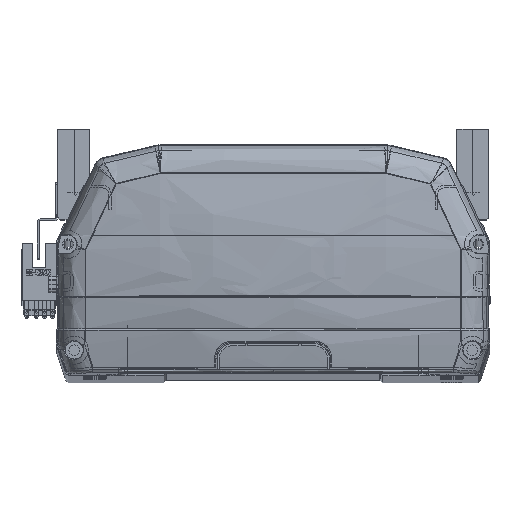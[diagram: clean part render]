
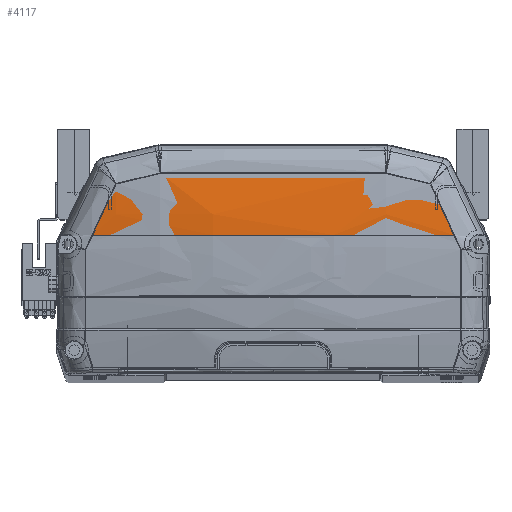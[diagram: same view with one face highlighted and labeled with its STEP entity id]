
A CAD part, top view. The second image highlights one B-rep face of the part: STEP entity #4117.
In plain terms, the highlighted toroidal (fillet/blend) face has major radius 312.5 mm and minor radius 572.4 mm.
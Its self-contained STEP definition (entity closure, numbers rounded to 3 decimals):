
#63 = CARTESIAN_POINT ( 'NONE',  ( 14.805, 79.361, -1.235 ) ) ;
#93 = TOROIDAL_SURFACE ( 'NONE', #24545, -312.5, 572.4 ) ;
#917 = B_SPLINE_CURVE_WITH_KNOTS ( 'NONE', 3,
 ( #5442, #2244, #36253, #12828 ),
 .UNSPECIFIED., .F., .F.,
 ( 4, 4 ),
 ( 0., 0.018 ),
 .UNSPECIFIED. ) ;
#1046 = ORIENTED_EDGE ( 'NONE', *, *, #17929, .F. ) ;
#1422 = CARTESIAN_POINT ( 'NONE',  ( 0., 55.096, -572.5 ) ) ;
#2244 = CARTESIAN_POINT ( 'NONE',  ( 50.132, 78.049, -3.29 ) ) ;
#3226 = CARTESIAN_POINT ( 'NONE',  ( -61.718, 75.278, -4.232 ) ) ;
#3555 = EDGE_CURVE ( 'NONE', #37164, #18410, #21146, .T. ) ;
#4117 = ADVANCED_FACE ( 'NONE', ( #27709 ), #93, .T. ) ;
#4731 = CARTESIAN_POINT ( 'NONE',  ( -63.264, 71.911, -4.135 ) ) ;
#5442 = CARTESIAN_POINT ( 'NONE',  ( 44.331, 79.443, -2.97 ) ) ;
#6615 = CARTESIAN_POINT ( 'NONE',  ( 44.331, 79.443, -2.97 ) ) ;
#8072 = CARTESIAN_POINT ( 'NONE',  ( -61.718, 75.278, -4.232 ) ) ;
#8225 = ORIENTED_EDGE ( 'NONE', *, *, #3555, .F. ) ;
#8341 = EDGE_CURVE ( 'NONE', #37240, #37164, #917, .T. ) ;
#9043 = EDGE_CURVE ( 'NONE', #9798, #18410, #40972, .T. ) ;
#9798 = VERTEX_POINT ( 'NONE', #36061 ) ;
#10985 = VERTEX_POINT ( 'NONE', #15142 ) ;
#11192 = CARTESIAN_POINT ( 'NONE',  ( 64.811, 68.545, -4.037 ) ) ;
#12828 = CARTESIAN_POINT ( 'NONE',  ( 61.718, 75.278, -4.232 ) ) ;
#12878 = CARTESIAN_POINT ( 'NONE',  ( -44.331, 79.443, -2.97 ) ) ;
#14561 = CARTESIAN_POINT ( 'NONE',  ( 67.917, 61.809, -4.135 ) ) ;
#15142 = CARTESIAN_POINT ( 'NONE',  ( -44.331, 79.443, -2.97 ) ) ;
#15454 = VERTEX_POINT ( 'NONE', #3226 ) ;
#16063 = DIRECTION ( 'NONE',  ( 1., 0., 0. ) ) ;
#16880 = ORIENTED_EDGE ( 'NONE', *, *, #9043, .T. ) ;
#17929 = EDGE_CURVE ( 'NONE', #10985, #37240, #22325, .T. ) ;
#18004 = CARTESIAN_POINT ( 'NONE',  ( -67.917, 61.816, -4.208 ) ) ;
#18410 = VERTEX_POINT ( 'NONE', #24177 ) ;
#18535 = CARTESIAN_POINT ( 'NONE',  ( 61.718, 75.278, -4.232 ) ) ;
#18758 = CARTESIAN_POINT ( 'NONE',  ( 61.718, 75.278, -4.232 ) ) ;
#20212 = CARTESIAN_POINT ( 'NONE',  ( -61.718, 75.278, -4.232 ) ) ;
#21146 = B_SPLINE_CURVE_WITH_KNOTS ( 'NONE', 3,
 ( #18535, #11192, #14561, #21289 ),
 .UNSPECIFIED., .F., .F.,
 ( 4, 4 ),
 ( 0., 0.022 ),
 .UNSPECIFIED. ) ;
#21289 = CARTESIAN_POINT ( 'NONE',  ( 71.027, 55.096, -4.524 ) ) ;
#22325 = B_SPLINE_CURVE_WITH_KNOTS ( 'NONE', 3,
 ( #12878, #23249, #23518, #63, #30298, #6615 ),
 .UNSPECIFIED., .F., .F.,
 ( 4, 2, 4 ),
 ( 0., 0.044, 0.089 ),
 .UNSPECIFIED. ) ;
#22824 = ORIENTED_EDGE ( 'NONE', *, *, #8341, .F. ) ;
#23249 = CARTESIAN_POINT ( 'NONE',  ( -29.579, 79.39, -1.814 ) ) ;
#23518 = CARTESIAN_POINT ( 'NONE',  ( -14.788, 79.361, -1.235 ) ) ;
#24033 = ORIENTED_EDGE ( 'NONE', *, *, #35253, .F. ) ;
#24177 = CARTESIAN_POINT ( 'NONE',  ( 71.027, 55.096, -4.524 ) ) ;
#24412 = DIRECTION ( 'NONE',  ( 0., 1., 0. ) ) ;
#24545 = AXIS2_PLACEMENT_3D ( 'NONE', #38732, #16063, #27090 ) ;
#24853 = DIRECTION ( 'NONE',  ( 0., 0., 1. ) ) ;
#26415 = CARTESIAN_POINT ( 'NONE',  ( 44.331, 79.443, -2.97 ) ) ;
#27090 = DIRECTION ( 'NONE',  ( 0., 0., -1. ) ) ;
#27709 = FACE_OUTER_BOUND ( 'NONE', #41637, .T. ) ;
#28449 = ORIENTED_EDGE ( 'NONE', *, *, #36833, .F. ) ;
#28589 = CARTESIAN_POINT ( 'NONE',  ( -69.472, 58.454, -4.329 ) ) ;
#30034 = CARTESIAN_POINT ( 'NONE',  ( -55.929, 76.661, -3.711 ) ) ;
#30298 = CARTESIAN_POINT ( 'NONE',  ( 29.579, 79.389, -1.814 ) ) ;
#30309 = CARTESIAN_POINT ( 'NONE',  ( -50.132, 78.049, -3.29 ) ) ;
#34151 = AXIS2_PLACEMENT_3D ( 'NONE', #1422, #24412, #24853 ) ;
#35253 = EDGE_CURVE ( 'NONE', #15454, #10985, #40160, .T. ) ;
#36061 = CARTESIAN_POINT ( 'NONE',  ( -71.027, 55.096, -4.524 ) ) ;
#36253 = CARTESIAN_POINT ( 'NONE',  ( 55.929, 76.66, -3.711 ) ) ;
#36733 = CARTESIAN_POINT ( 'NONE',  ( -44.331, 79.443, -2.97 ) ) ;
#36833 = EDGE_CURVE ( 'NONE', #9798, #15454, #42651, .T. ) ;
#37164 = VERTEX_POINT ( 'NONE', #18758 ) ;
#37240 = VERTEX_POINT ( 'NONE', #26415 ) ;
#38473 = CARTESIAN_POINT ( 'NONE',  ( -71.027, 55.096, -4.524 ) ) ;
#38732 = CARTESIAN_POINT ( 'NONE',  ( 0., 55.096, -260. ) ) ;
#40160 = B_SPLINE_CURVE_WITH_KNOTS ( 'NONE', 3,
 ( #20212, #30034, #30309, #36733 ),
 .UNSPECIFIED., .F., .F.,
 ( 4, 4 ),
 ( 0., 0.018 ),
 .UNSPECIFIED. ) ;
#40972 = CIRCLE ( 'NONE', #34151, 572.4 ) ;
#41203 = CARTESIAN_POINT ( 'NONE',  ( -64.813, 68.545, -4.11 ) ) ;
#41637 = EDGE_LOOP ( 'NONE', ( #28449, #16880, #8225, #22824, #1046, #24033 ) ) ;
#42651 = B_SPLINE_CURVE_WITH_KNOTS ( 'NONE', 3,
 ( #38473, #28589, #18004, #41203, #4731, #8072 ),
 .UNSPECIFIED., .F., .F.,
 ( 4, 2, 4 ),
 ( 0.006, 0.017, 0.029 ),
 .UNSPECIFIED. ) ;
